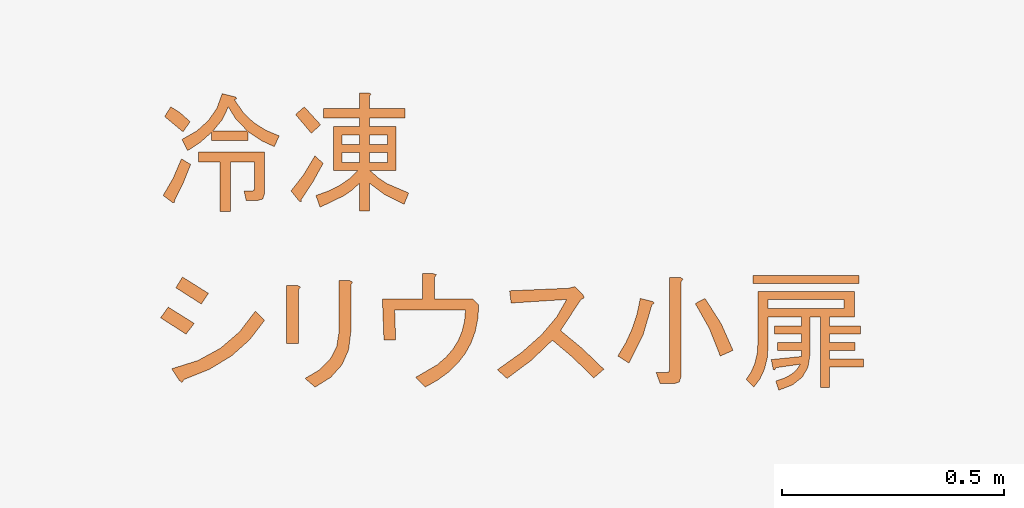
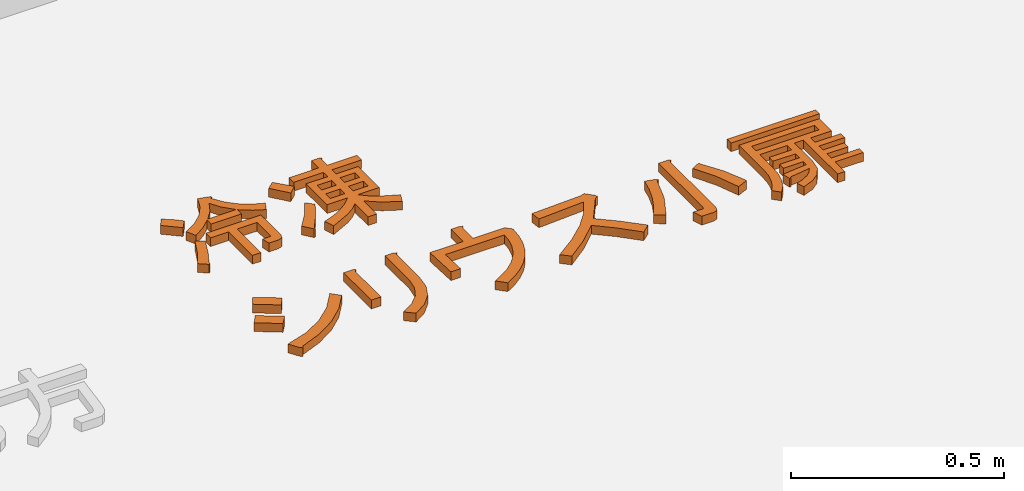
# One storey, part 15 of 16: 1 proxy.
"""IFC2X3 building model written with IfcOpenShell, lengths in millimetres."""

import ifcopenshell
import ifcopenshell.guid

model = None  # the IFC model being written
_history = None  # IfcOwnerHistory: only IFC2X3 demands one
_inside = {}  # id of a spatial element -> (the spatial element, [elements in it])
_under = {}  # id of a project, library or spatial element -> (it, [spatial elements below it])
_declared = {}  # id of a project -> (the project, [libraries it declares])
_typed = {}  # id of a type object -> (the type object, [elements of that type])
_made_of = {}  # id of a material, layer set ... -> (it, [elements and type objects made of it])


def new_model(schema):
    """Start an empty IFC model of exactly this schema.

    Asked for "IFC4X3", IfcOpenShell would pick the latest addendum, in which some entities
    have other attributes; the version numbers below select the first issue.
    IFC2X3 requires an IfcOwnerHistory on every rooted entity: one is made here for all.
    """
    global model, _history
    if schema == "IFC4X3":
        model = ifcopenshell.file(schema_version=(4, 3, 0, 0))
    else:
        model = ifcopenshell.file(schema=schema)
    _inside.clear()
    _under.clear()
    _declared.clear()
    _typed.clear()
    _made_of.clear()
    _history = None
    if model.schema == "IFC2X3":
        org = make("IfcOrganization", Name="unknown")
        user = make(
            "IfcPersonAndOrganization",
            ThePerson=make("IfcPerson", FamilyName="unknown"),
            TheOrganization=org,
        )
        app = make(
            "IfcApplication",
            ApplicationDeveloper=org,
            Version="unknown",
            ApplicationFullName="unknown",
            ApplicationIdentifier="unknown",
        )
        _history = make(
            "IfcOwnerHistory",
            OwningUser=user,
            OwningApplication=app,
            ChangeAction="ADDED",
            CreationDate=0,
        )
    return model


def make(cls, **values):
    """One entity of the class cls with the attributes given. An attribute that is None is left unset."""
    return model.create_entity(
        cls, **{name: value for name, value in values.items() if value is not None}
    )


def entity(cls, *values):
    """Any entity or typed value of the class cls, its attributes in the order of the schema. None: left unset."""
    e = model.create_entity(cls)
    for i, value in enumerate(values):
        if value is not None:
            e[i] = value
    return e


def rooted(cls, **values):
    """An entity with a GlobalId (a new one), such as an element, a storey or a relation."""
    return make(cls, GlobalId=ifcopenshell.guid.new(), OwnerHistory=_history, **values)


def si_unit(unit_type, name, prefix=None):
    """IfcSIUnit, for example si_unit("LENGTHUNIT", "METRE", prefix="MILLI")."""
    return make("IfcSIUnit", UnitType=unit_type, Prefix=prefix, Name=name)


def converted_unit(unit_type, name, factor, base, dimensions=None, offset=None):
    """IfcConversionBasedUnit, such as the inch: factor (a typed value) times the base unit."""
    return make(
        "IfcConversionBasedUnit"
        if offset is None
        else "IfcConversionBasedUnitWithOffset",
        ConversionOffset=offset,
        Dimensions=None
        if dimensions is None
        else entity("IfcDimensionalExponents", *dimensions),
        UnitType=unit_type,
        Name=name,
        ConversionFactor=make(
            "IfcMeasureWithUnit", ValueComponent=factor, UnitComponent=base
        ),
    )


def derived_unit(unit_type, elements):
    """IfcDerivedUnit: a product of units, each with its exponent."""
    return make(
        "IfcDerivedUnit",
        Elements=[
            make("IfcDerivedUnitElement", Unit=unit, Exponent=power)
            for unit, power in elements
        ],
        UnitType=unit_type,
    )


def assignment(units):
    """IfcUnitAssignment: the units of a project."""
    return None if units is None else make("IfcUnitAssignment", Units=units)


def point(xyz):
    """IfcCartesianPoint."""
    return None if xyz is None else make("IfcCartesianPoint", Coordinates=xyz)


def direction(xyz):
    """IfcDirection."""
    return None if xyz is None else make("IfcDirection", DirectionRatios=xyz)


def frame(location, z_axis=None, x_axis=None):
    """IfcAxis2Placement3D, a coordinate frame: its origin and axes. An axis left out is left unset."""
    return make(
        "IfcAxis2Placement3D",
        Location=point(location),
        Axis=direction(z_axis),
        RefDirection=direction(x_axis),
    )


def frame_2d(location, x_axis=None):
    """IfcAxis2Placement2D, a coordinate frame in the plane: its origin and x axis."""
    return make(
        "IfcAxis2Placement2D", Location=point(location), RefDirection=direction(x_axis)
    )


def origin():
    """The frame at (0, 0, 0) with its axes left unset."""
    return frame((0.0, 0.0, 0.0))


def place(relative_to, where):
    """IfcLocalPlacement: puts the frame where relative to a parent placement (None: the world)."""
    return make(
        "IfcLocalPlacement", PlacementRelTo=relative_to, RelativePlacement=where
    )


def context(
    kind, dimensions, precision=None, world=None, true_north=None, identifier=None
):
    """IfcGeometricRepresentationContext, for example the 3D "Model" context."""
    return make(
        "IfcGeometricRepresentationContext",
        ContextIdentifier=identifier,
        ContextType=kind,
        CoordinateSpaceDimension=dimensions,
        Precision=precision,
        WorldCoordinateSystem=world,
        TrueNorth=true_north,
    )


def subcontext(parent, identifier, kind, view, scale=None):
    """IfcGeometricRepresentationSubContext, for example "Body" below "Model"."""
    return make(
        "IfcGeometricRepresentationSubContext",
        ContextIdentifier=identifier,
        ContextType=kind,
        ParentContext=parent,
        TargetScale=scale,
        TargetView=view,
    )


def project(units=None, contexts=None):
    """IfcProject with its units and contexts."""
    return rooted(
        "IfcProject",
        Name="project",
        RepresentationContexts=contexts,
        UnitsInContext=assignment(units),
    )


def spatial(cls, under=None, at=None, **own):
    """A site, building, storey or space (cls), placed at a placement, below another one or the project."""
    s = rooted(cls, ObjectPlacement=at, **own)
    if under is not None:
        _under.setdefault(under.id(), (under, []))[1].append(s)
    return s


def polyline(points):
    """IfcPolyline through the points."""
    return make("IfcPolyline", Points=[point(p) for p in points])


def profile(cls, at=None, kind="AREA", **sizes):
    """A parametric profile (cls). Its sizes go by their IFC names, for example OverallWidth=200.0."""
    return make(cls, ProfileType=kind, Position=at, **sizes)


def rectangle(**sizes):
    """IfcRectangleProfileDef."""
    return profile("IfcRectangleProfileDef", **sizes)


def outline(outer, holes=None, kind="AREA"):
    """IfcArbitraryClosedProfileDef: a profile drawn as a closed curve; with holes, ...WithVoids."""
    if holes is None:
        return make("IfcArbitraryClosedProfileDef", ProfileType=kind, OuterCurve=outer)
    return make(
        "IfcArbitraryProfileDefWithVoids",
        ProfileType=kind,
        OuterCurve=outer,
        InnerCurves=holes,
    )


def extrude(swept, where, along, depth):
    """IfcExtrudedAreaSolid: the profile swept, set in the frame where, extruded along a direction by depth."""
    return make(
        "IfcExtrudedAreaSolid",
        SweptArea=swept,
        Position=where,
        ExtrudedDirection=direction(along),
        Depth=depth,
    )


def shape(context_of_items, identifier, shape_type, items):
    """IfcShapeRepresentation: the items that make up one representation, for example the "Body"."""
    return make(
        "IfcShapeRepresentation",
        ContextOfItems=context_of_items,
        RepresentationIdentifier=identifier,
        RepresentationType=shape_type,
        Items=items,
    )


def made_of(thing, what):
    """Note that an element or type object is made of a material, layer set ...; save() writes the relation."""
    if what is not None:
        _made_of.setdefault(what.id(), (what, []))[1].append(thing)
    return thing


def type_object(cls, material=None, **own):
    """A type object (cls), such as IfcWallType, which elements share."""
    return made_of(rooted(cls, **own), material)


def element(
    cls,
    number,
    at=None,
    inside=None,
    cuts=None,
    type_object=None,
    material=None,
    context=None,
    identifier="Body",
    shape_type=None,
    held_by="IfcProductDefinitionShape",
    body=None,
    shapes=None,
    **own,
):
    """One element of the class cls, such as IfcWall. Its Tag is "e" and its number.

    at: its placement. inside: the storey or other place that contains it. cuts: it is an
    opening in that element (IfcRelVoidsElement). A single representation is given by context,
    identifier, shape_type and body (its items); several are given by shapes. held_by: the class
    of the entity that holds the representations. save() writes the other relations.
    """
    e = rooted(cls, Tag="e%d" % number, ObjectPlacement=at, **own)
    if body is not None:
        shapes = [shape(context, identifier, shape_type, body)]
    if shapes is not None:
        e.Representation = make(held_by, Representations=shapes)
    if inside is not None:
        _inside.setdefault(inside.id(), (inside, []))[1].append(e)
    if cuts is not None:
        rooted(
            "IfcRelVoidsElement", RelatingBuildingElement=cuts, RelatedOpeningElement=e
        )
    if type_object is not None:
        _typed.setdefault(type_object.id(), (type_object, []))[1].append(e)
    return made_of(e, material)


def aggregate(whole, parts):
    """IfcRelAggregates: a whole, such as a stair, and the parts it consists of."""
    return rooted("IfcRelAggregates", RelatingObject=whole, RelatedObjects=parts)


def save(model, path):
    """Write the relations noted so far, then the file.

    IfcRelAggregates (storeys below a building ...), IfcRelContainedInSpatialStructure (elements
    in a storey), IfcRelDefinesByType, IfcRelAssociatesMaterial and IfcRelDeclares: one each for
    every whole, place, type object, material and project.
    """
    for whole, parts in _under.values():
        aggregate(whole, parts)
    for where, things in _inside.values():
        rooted(
            "IfcRelContainedInSpatialStructure",
            RelatedElements=things,
            RelatingStructure=where,
        )
    for kind, things in _typed.values():
        rooted("IfcRelDefinesByType", RelatedObjects=things, RelatingType=kind)
    for what, things in _made_of.values():
        rooted("IfcRelAssociatesMaterial", RelatedObjects=things, RelatingMaterial=what)
    for by, libraries in _declared.values():
        rooted("IfcRelDeclares", RelatingContext=by, RelatedDefinitions=libraries)
    model.write(path)


model = new_model("IFC2X3")

# Units and contexts
model_context = context("Model", 3, precision=0.01, world=origin(), true_north=direction((6.123031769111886e-17, 1.0)))
body_context = subcontext(model_context, "Body", "Model", "MODEL_VIEW")
ifc_project = project(units=[si_unit("LENGTHUNIT", "METRE", prefix="MILLI"), si_unit("AREAUNIT", "SQUARE_METRE"), si_unit("VOLUMEUNIT", "CUBIC_METRE"), converted_unit("PLANEANGLEUNIT", "DEGREE", entity("IfcRatioMeasure", 0.017453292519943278), si_unit("PLANEANGLEUNIT", "RADIAN"), dimensions=[0, 0, 0, 0, 0, 0, 0]), si_unit("MASSUNIT", "GRAM", prefix="KILO"), derived_unit("MASSDENSITYUNIT", [(si_unit("MASSUNIT", "GRAM", prefix="KILO"), 1), (si_unit("LENGTHUNIT", "METRE"), -3)]), derived_unit("IONCONCENTRATIONUNIT", [(si_unit("MASSUNIT", "GRAM", prefix="KILO"), 1), (si_unit("LENGTHUNIT", "METRE"), -3)]), derived_unit("MOMENTOFINERTIAUNIT", [(si_unit("LENGTHUNIT", "METRE"), 4)]), si_unit("TIMEUNIT", "SECOND"), si_unit("FREQUENCYUNIT", "HERTZ"), si_unit("THERMODYNAMICTEMPERATUREUNIT", "DEGREE_CELSIUS"), derived_unit("THERMALTRANSMITTANCEUNIT", [(si_unit("MASSUNIT", "GRAM", prefix="KILO"), 1), (si_unit("THERMODYNAMICTEMPERATUREUNIT", "KELVIN"), -1), (si_unit("TIMEUNIT", "SECOND"), -3)]), derived_unit("THERMALCONDUCTANCEUNIT", [(si_unit("MASSUNIT", "GRAM", prefix="KILO"), 1), (si_unit("THERMODYNAMICTEMPERATUREUNIT", "KELVIN"), -1), (si_unit("TIMEUNIT", "SECOND"), -3), (si_unit("LENGTHUNIT", "METRE"), 1)]), derived_unit("VOLUMETRICFLOWRATEUNIT", [(si_unit("LENGTHUNIT", "METRE"), 3), (si_unit("TIMEUNIT", "SECOND"), -1)]), derived_unit("MASSFLOWRATEUNIT", [(si_unit("MASSUNIT", "GRAM", prefix="KILO"), 1), (si_unit("TIMEUNIT", "SECOND"), -1)]), derived_unit("ROTATIONALFREQUENCYUNIT", [(si_unit("TIMEUNIT", "SECOND"), -1)]), si_unit("ELECTRICCURRENTUNIT", "AMPERE"), si_unit("ELECTRICVOLTAGEUNIT", "VOLT"), si_unit("POWERUNIT", "WATT"), si_unit("FORCEUNIT", "NEWTON", prefix="KILO"), si_unit("ILLUMINANCEUNIT", "LUX"), si_unit("LUMINOUSFLUXUNIT", "LUMEN"), si_unit("LUMINOUSINTENSITYUNIT", "CANDELA"), derived_unit("USERDEFINED", [(si_unit("MASSUNIT", "GRAM", prefix="KILO"), -1), (si_unit("LENGTHUNIT", "METRE"), -2), (si_unit("TIMEUNIT", "SECOND"), 3), (si_unit("LUMINOUSFLUXUNIT", "LUMEN"), 1)]), derived_unit("USERDEFINED", [(si_unit("MASSUNIT", "GRAM", prefix="KILO"), 1), (si_unit("TIMEUNIT", "SECOND"), -3), (si_unit("LENGTHUNIT", "METRE"), 3), (si_unit("ELECTRICCURRENTUNIT", "AMPERE"), -2)]), derived_unit("SOUNDPOWERUNIT", [(si_unit("MASSUNIT", "GRAM", prefix="KILO"), 1), (si_unit("TIMEUNIT", "SECOND"), -3), (si_unit("LENGTHUNIT", "METRE"), 2)]), derived_unit("SOUNDPRESSUREUNIT", [(si_unit("MASSUNIT", "GRAM", prefix="KILO"), 1), (si_unit("LENGTHUNIT", "METRE"), -1), (si_unit("TIMEUNIT", "SECOND"), -2)]), derived_unit("LINEARVELOCITYUNIT", [(si_unit("LENGTHUNIT", "METRE"), 1), (si_unit("TIMEUNIT", "SECOND"), -1)]), si_unit("PRESSUREUNIT", "PASCAL"), derived_unit("USERDEFINED", [(si_unit("MASSUNIT", "GRAM", prefix="KILO"), 1), (si_unit("LENGTHUNIT", "METRE"), -2), (si_unit("TIMEUNIT", "SECOND"), -2)]), derived_unit("LINEARFORCEUNIT", [(si_unit("MASSUNIT", "GRAM", prefix="KILO"), 1), (si_unit("TIMEUNIT", "SECOND"), -2)]), derived_unit("PLANARFORCEUNIT", [(si_unit("MASSUNIT", "GRAM", prefix="KILO"), 1), (si_unit("LENGTHUNIT", "METRE"), -1), (si_unit("TIMEUNIT", "SECOND"), -2)]), derived_unit("SPECIFICHEATCAPACITYUNIT", [(si_unit("THERMODYNAMICTEMPERATUREUNIT", "KELVIN"), -1), (si_unit("LENGTHUNIT", "METRE"), 2), (si_unit("TIMEUNIT", "SECOND"), -2)]), derived_unit("HEATINGVALUEUNIT", [(si_unit("LENGTHUNIT", "METRE"), 2), (si_unit("TIMEUNIT", "SECOND"), -2)]), derived_unit("VAPORPERMEABILITYUNIT", [(si_unit("LENGTHUNIT", "METRE"), -1), (si_unit("TIMEUNIT", "SECOND"), 1)]), derived_unit("DYNAMICVISCOSITYUNIT", [(si_unit("MASSUNIT", "GRAM", prefix="KILO"), 1), (si_unit("TIMEUNIT", "SECOND"), -1), (si_unit("LENGTHUNIT", "METRE"), -1)]), derived_unit("THERMALEXPANSIONCOEFFICIENTUNIT", [(si_unit("THERMODYNAMICTEMPERATUREUNIT", "KELVIN"), -1)]), derived_unit("MODULUSOFELASTICITYUNIT", [(si_unit("MASSUNIT", "GRAM", prefix="KILO"), 1), (si_unit("LENGTHUNIT", "METRE"), -1), (si_unit("TIMEUNIT", "SECOND"), -2)]), derived_unit("ISOTHERMALMOISTURECAPACITYUNIT", [(si_unit("LENGTHUNIT", "METRE"), 3), (si_unit("MASSUNIT", "GRAM", prefix="KILO"), -1)]), derived_unit("MOISTUREDIFFUSIVITYUNIT", [(si_unit("TIMEUNIT", "SECOND"), -1), (si_unit("LENGTHUNIT", "METRE"), 2)])], contexts=[model_context])

# Site, building, storey
site_placement = place(None, origin())
site = spatial("IfcSite", under=ifc_project, at=site_placement, Name="Default", CompositionType="ELEMENT")
building_placement = place(site_placement, origin())
building = spatial("IfcBuilding", under=site, at=building_placement, CompositionType="ELEMENT")
storey_placement = place(building_placement, frame((0.0, 0.0, 500.0)))
storey = spatial("IfcBuildingStorey", under=building, at=storey_placement, Name="レベル 1", CompositionType="ELEMENT", Elevation=500.00000000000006)

# Proxy
building_element_proxy_type = type_object("IfcBuildingElementProxyType", Name="立体文字:200㎜\u3000MS Pゴシック", PredefinedType="NOTDEFINED")
proxy_placement = place(storey_placement, origin())
element("IfcBuildingElementProxy", 1, at=proxy_placement, inside=storey, type_object=building_element_proxy_type, Name="立体文字:200㎜\u3000MS Pゴシック", ObjectType="立体文字:200㎜\u3000MS Pゴシック", context=body_context, shape_type="SweptSolid", body=[
    extrude(outline(polyline([(-12.69292841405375, -26.506046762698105), (13.137935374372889, -26.506046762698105), (20.196666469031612, 26.894788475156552), (-7.8336570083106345, 28.224694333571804), (-12.808016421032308, -2.107389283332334), (-12.69292841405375, -26.506046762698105)])), frame((10373.947496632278, 18997.184638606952, 0.0), z_axis=(0.0, 0.0, 1.0), x_axis=(-0.5339929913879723, -0.8454889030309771, 0.0)), (0.0, 0.0, 1.0), 24.99999999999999),
    extrude(outline(polyline([(-35.74413796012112, -10.848757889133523), (11.518383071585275, -10.84875788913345), (59.58462904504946, -6.865077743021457), (63.770987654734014, 17.99448415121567), (13.954019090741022, 15.607770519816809), (-32.1867814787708, 19.112710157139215), (-41.482035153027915, -10.520278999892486), (-39.415064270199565, -13.632092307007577), (-35.74413796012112, -10.848757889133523)])), frame((10663.316452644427, 18848.645883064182, 0.0), z_axis=(0.0, 0.0, 1.0), x_axis=(0.5532962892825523, 0.8329845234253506, 0.0)), (0.0, 0.0, 1.0), 24.99999999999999),
    extrude(outline(polyline([(-14.555450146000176, -34.35830877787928), (13.834076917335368, -34.35830877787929), (14.857961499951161, 33.86963659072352), (-14.136588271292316, 34.846980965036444), (-14.555450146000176, -34.35830877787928)])), frame((10406.304749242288, 18607.702182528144, 0.0), z_axis=(0.0, 0.0, 1.0), x_axis=(-0.526354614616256, -0.8502651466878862, 0.0)), (0.0, 0.0, 1.0), 24.99999999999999),
    extrude(outline(polyline([(-84.58097707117, 8.189890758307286), (-84.58097707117, -18.24765133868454), (45.307816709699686, -18.24765133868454), (45.307816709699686, 7.040432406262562), (42.43417082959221, 13.075088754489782), (36.112149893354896, 8.189890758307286), (-84.58097707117, 8.189890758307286)])), frame((10637.949343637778, 18573.314220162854, 0.0), z_axis=(0.0, 0.0, -1.0), x_axis=(0.0, 1.0, 0.0)), (0.0, 0.0, -1.0), 25.0),
    extrude(outline(polyline([(-11.477428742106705, -36.07605005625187), (15.650762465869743, -36.07605005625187), (18.548657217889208, -33.226859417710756), (15.261129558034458, -27.796350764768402), (8.868714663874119, 11.398284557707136), (-3.1003212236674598, 57.192327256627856), (-27.257561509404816, 55.098050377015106), (-16.49395243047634, 9.486648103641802), (-11.477428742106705, -36.07605005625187)])), frame((10371.713236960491, 18844.299493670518, 0.0), z_axis=(0.0, 0.0, 1.0), x_axis=(0.805055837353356, -0.5931990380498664, 0.0)), (0.0, 0.0, 1.0), 24.999999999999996),
    extrude(outline(polyline([(-21.43923971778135, -112.61303631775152), (6.833697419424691, -112.61303631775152), (2.592756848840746, -77.40037824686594), (-6.017637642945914, -45.78609399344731), (10.43207123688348, -54.010948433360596), (47.443916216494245, 20.012741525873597), (29.96610053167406, 28.75164936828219), (60.93781803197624, 46.35797840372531), (85.99792140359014, 66.2775477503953), (69.54821252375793, 87.3537372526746), (43.460002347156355, 64.89602923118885), (15.058551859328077, 48.414192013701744), (-15.6561389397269, 37.90822560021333), (-48.68407005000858, 33.37812999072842), (-48.298529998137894, 38.64717736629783), (-52.2824438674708, 39.032717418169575), (-73.35863336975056, 14.872207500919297), (-49.68004851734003, -10.059382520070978), (-33.1339546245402, -39.61745316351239), (-23.720351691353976, -73.80200442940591), (-21.43923971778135, -112.61303631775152)]), holes=[polyline([(26.881780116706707, 27.723542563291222), (-7.559797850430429, -41.15961337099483), (-20.668159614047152, -11.47302937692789), (-40.45921561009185, 13.844100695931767), (-9.230471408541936, 16.542881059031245), (26.881780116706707, 27.723542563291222)])]), frame((10493.915028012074, 18979.691319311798, 0.0), z_axis=(0.0, 0.0, 1.0), x_axis=(0.4472135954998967, -0.8944271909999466, 0.0)), (0.0, 0.0, 1.0), 24.99999999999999),
    extrude(outline(polyline([(-95.80016952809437, -47.900084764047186), (-95.80016952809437, -69.73979345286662), (53.629416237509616, -69.73979345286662), (53.629416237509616, 24.51579141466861), (49.60631200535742, 35.723010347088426), (37.536999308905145, 39.458749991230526), (12.248915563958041, 39.458749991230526), (7.6510821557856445, 17.619041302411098), (26.042415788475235, 17.619041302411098), (29.49079084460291, 16.469582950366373), (30.64024919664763, 13.0212078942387), (30.64024919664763, -47.900084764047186), (-23.384293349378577, -47.900084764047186), (-23.384293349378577, 63.59737538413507), (-46.37346039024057, 63.59737538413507), (-46.37346039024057, -47.900084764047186), (-95.80016952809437, -47.900084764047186)])), frame((10516.185783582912, 18850.02882514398, 0.0), z_axis=(0.0, 0.0, -1.0), x_axis=(1.0, 0.0, 0.0)), (0.0, 0.0, -1.0), 24.99999999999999),
    extrude(outline(polyline([(-13.144087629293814, -27.492310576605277), (12.91593567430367, -27.492310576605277), (14.335547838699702, 27.973964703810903), (-14.107395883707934, 27.01065644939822), (-13.144087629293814, -27.492310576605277)])), frame((10667.806524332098, 18992.759223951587, 0.0), z_axis=(0.0, 0.0, 1.0), x_axis=(-0.7498378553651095, -0.6616216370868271, 0.0)), (0.0, 0.0, 1.0), 24.99999999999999),
    extrude(outline(polyline([(-127.45617271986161, 14.342286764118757), (-127.45617271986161, -8.64688027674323), (-65.38542170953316, -8.64688027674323), (-79.53812766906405, -23.230633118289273), (-93.25978674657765, -42.84326625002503), (-119.40996425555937, -97.1551733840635), (-92.97242215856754, -106.3508402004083), (-82.12440896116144, -76.75228763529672), (-69.1211613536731, -51.17683930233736), (-53.96267933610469, -29.6244952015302), (-36.64896290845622, -12.09525533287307), (-36.64896290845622, -67.26925623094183), (62.204455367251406, -67.26925623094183), (62.204455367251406, -8.64688027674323), (81.74524735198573, -8.64688027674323), (81.74524735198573, -89.10896491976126), (103.58495604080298, -89.10896491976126), (103.58495604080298, -8.64688027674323), (138.06870660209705, -8.64688027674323), (138.06870660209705, 13.1928284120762), (135.76978989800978, 18.078026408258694), (131.17195648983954, 14.342286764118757), (103.58495604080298, 14.342286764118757), (103.58495604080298, 94.8043714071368), (81.74524735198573, 94.8043714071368), (81.74524735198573, 14.342286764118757), (62.204455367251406, 14.342286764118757), (62.204455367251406, 74.11412107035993), (-36.64896290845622, 74.11412107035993), (-36.64896290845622, 15.491745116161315), (-52.741379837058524, 33.883078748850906), (-66.53488006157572, 54.573329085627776), (-87.22513039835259, 102.85057987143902), (-112.51321414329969, 92.50545470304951), (-91.53559921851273, 49.40076650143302), (-65.38542170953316, 14.342286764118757), (-127.45617271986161, 14.342286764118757)]), holes=[polyline([(21.973413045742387, 14.342286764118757), (21.973413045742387, 54.573329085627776), (43.81312173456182, 54.573329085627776), (43.81312173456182, 14.342286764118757), (21.973413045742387, 14.342286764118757)]), polyline([(-18.257629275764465, 14.342286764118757), (-18.257629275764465, 54.573329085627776), (3.582079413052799, 54.573329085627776), (3.582079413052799, 14.342286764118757), (-18.257629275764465, 14.342286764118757)]), polyline([(-18.257629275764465, -47.72846424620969), (-18.257629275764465, -8.64688027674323), (3.582079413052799, -8.64688027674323), (3.582079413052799, -47.72846424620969), (-18.257629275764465, -47.72846424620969)]), polyline([(21.973413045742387, -47.72846424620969), (21.973413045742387, -8.64688027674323), (43.81312173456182, -8.64688027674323), (43.81312173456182, -47.72846424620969), (21.973413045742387, -47.72846424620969)])]), frame((10792.261333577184, 18915.037080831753, 0.0), z_axis=(0.0, 0.0, -1.0), x_axis=(0.0, 1.0, 0.0)), (0.0, 0.0, -1.0), 24.99999999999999),
    extrude(outline(polyline([(-24.760861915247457, -100.93244714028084), (5.213344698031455, -100.93244714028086), (14.007247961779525, -98.35378377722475), (10.414751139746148, -90.61779368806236), (21.87547719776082, -29.78778614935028), (23.19786866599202, 27.95664129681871), (14.381925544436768, 82.61548865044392), (-4.572352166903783, 134.1887559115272), (-33.13600788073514, 127.84127686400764), (-12.975047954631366, 72.9455010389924), (-4.858870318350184, 16.517955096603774), (-8.787474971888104, -41.44136096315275), (-24.760861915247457, -100.93244714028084)])), frame((10459.060098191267, 18464.558697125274, 0.0), z_axis=(0.0, 0.0, 1.0), x_axis=(0.5368754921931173, -0.8436614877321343, 0.0)), (0.0, 0.0, 1.0), 24.99999999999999),
    extrude(outline(polyline([(-12.927911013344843, -34.30740209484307), (16.736132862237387, -34.30740209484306), (13.261965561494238, 33.839725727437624), (-17.07018741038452, 34.77507846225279), (-12.927911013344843, -34.30740209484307)])), frame((10372.97045703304, 18539.884139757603, 0.0), z_axis=(0.0, 0.0, 1.0), x_axis=(-0.5812381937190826, -0.8137334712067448, 0.0)), (0.0, 0.0, 1.0), 24.99999999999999),
    extrude(outline(polyline([(12.171942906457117, 32.40035729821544), (-27.915417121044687, 27.371477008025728), (-61.968120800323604, 12.284836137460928), (-89.98616813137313, -12.85956531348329), (-111.96955911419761, -48.0617273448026), (-92.42876712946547, -71.05089438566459), (-72.88797514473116, -37.788443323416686), (-48.74934975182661, -13.865341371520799), (-20.012890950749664, 0.7184114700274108), (13.32140125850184, 5.962815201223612), (128.26723646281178, 5.962815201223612), (128.26723646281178, 30.101440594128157), (124.81886140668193, 36.42346153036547), (119.07156964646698, 32.40035729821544), (12.171942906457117, 32.40035729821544)])), frame((10732.13308735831, 18501.849383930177, 0.0), z_axis=(0.0, 0.0, -1.0), x_axis=(0.0, 1.0, 0.0)), (0.0, 0.0, -1.0), 25.0),
    extrude(outline(polyline([(-22.974011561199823, -96.8943406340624), (-3.467056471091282, -96.8943406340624), (57.492178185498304, -35.93510597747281), (91.6293495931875, -70.072277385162), (93.05173173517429, -77.59058299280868), (100.57003734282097, -74.13622636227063), (116.82583325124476, -57.88043045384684), (76.18634348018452, -17.240940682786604), (140.39673731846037, 46.96945315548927), (72.12239450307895, 110.3670571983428), (53.428229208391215, 91.67289190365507), (103.00840672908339, 45.343873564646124), (-9.969374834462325, -67.63390799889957), (-25.869575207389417, -48.8889433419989), (-38.21382022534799, -28.82319526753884), (-47.002109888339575, -7.436663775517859), (-52.23444419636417, 15.270651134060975), (-53.91082314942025, 39.298749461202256), (-52.03124674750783, 64.64763120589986), (-37.604227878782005, 119.30774494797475), (-68.49024010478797, 119.30774494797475), (-77.20233072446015, 88.01533782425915), (-81.79967300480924, 57.94211539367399), (-82.28226694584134, 29.08807765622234), (-78.65011254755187, 1.453224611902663), (-70.90320980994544, -24.962443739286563), (-59.04155873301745, -50.15892739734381), (-43.06515931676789, -74.1362263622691), (-22.974011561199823, -96.8943406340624)])), frame((10968.287766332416, 18522.673053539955, 0.0), z_axis=(0.0, 0.0, 1.0), x_axis=(-0.7071067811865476, 0.7071067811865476, 0.0)), (0.0, 0.0, 1.0), 24.999999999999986),
    extrude(outline(polyline([(5.525091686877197, 11.308020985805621), (-1.6526031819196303, 74.77664998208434), (-13.95159515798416, 140.91623239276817), (-42.89874219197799, 132.40700027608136), (-29.969436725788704, 67.22864593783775), (-22.823257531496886, 7.90432813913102), (-87.3476616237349, -7.171982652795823), (-151.01326358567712, -30.371458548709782), (-146.64834266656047, -59.3501212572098), (-83.07334826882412, -34.716682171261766), (-25.486332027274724, -19.214909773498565), (26.11270605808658, -12.844804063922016), (71.72376598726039, -15.60636504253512), (-3.7090009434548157, -115.96803050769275), (17.46953232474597, -133.9792384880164), (95.39203754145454, -25.628349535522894), (105.83948364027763, -15.98455313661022), (100.54485032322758, 9.480111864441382), (96.59357263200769, 15.507484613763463), (89.37254371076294, 11.308020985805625), (5.525091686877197, 11.308020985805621)])), frame((11225.210489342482, 18519.05020712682, 0.0), z_axis=(0.0, 0.0, -1.0), x_axis=(0.5483569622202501, 0.8362443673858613, 0.0)), (0.0, 0.0, -1.0), 24.999999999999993),
    extrude(outline(polyline([(-1.16701047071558, -84.82369873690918), (28.807196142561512, -84.82369873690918), (21.00508647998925, -13.150081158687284), (1.4777724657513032, 54.46820258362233), (4.232754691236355, 60.30876490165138), (-1.2551699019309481, 60.90384106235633), (-28.231955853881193, 51.91157907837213), (-15.696786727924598, 19.09974077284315), (-7.007572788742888, -14.626751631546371), (-2.164314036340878, -49.26789813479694), (-1.16701047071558, -84.82369873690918)])), frame((11413.41992626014, 18530.93273284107, 0.0), z_axis=(0.0, 0.0, 1.0), x_axis=(0.8436614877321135, -0.53687549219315, 0.0)), (0.0, 0.0, 1.0), 24.99999999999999),
    extrude(outline(polyline([(11.87773630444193, 63.81888558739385), (37.1658200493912, 63.81888558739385), (27.970153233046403, 89.10696933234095), (-4.214680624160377, 89.10696933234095), (-15.42189955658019, 85.37122968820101), (-19.157639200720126, 74.1640107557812), (-19.157639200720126, -140.7847010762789), (-24.042837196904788, -146.53199283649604), (-18.00818084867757, -149.98036789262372), (7.279902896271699, -149.98036789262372), (7.279902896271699, 59.22105217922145), (8.429361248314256, 62.669427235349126), (11.87773630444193, 63.81888558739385)])), frame((11490.270795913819, 18487.03300261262, 0.0), z_axis=(0.0, 0.0, 1.0), x_axis=(-1.0, 0.0, 0.0)), (0.0, 0.0, 1.0), 24.99999999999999),
    extrude(rectangle(XDim=239.08733722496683, YDim=18.39133363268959, at=frame_2d((-1.0800249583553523e-12, 0.0), x_axis=(1.0, 0.0))), frame((11791.0457313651, 18632.415537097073, 0.0), z_axis=(0.0, 0.0, 1.0), x_axis=(-1.0, 0.0, 0.0)), (0.0, 0.0, 1.0), 25.0),
    extrude(outline(polyline([(45.656903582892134, -73.01948813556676), (67.46634239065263, -73.01948813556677), (65.92150714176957, -40.16902093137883), (56.56162298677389, -13.952258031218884), (39.38668992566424, 5.630800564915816), (14.396707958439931, 18.580154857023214), (-67.38868757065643, 45.84195336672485), (-59.75538398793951, 68.74186411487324), (91.82021572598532, 18.216664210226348), (97.99955672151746, 36.75468719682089), (54.38067910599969, 51.29431306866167), (78.73455244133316, 124.35593307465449), (61.28700139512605, 130.17178342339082), (36.93312805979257, 57.110163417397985), (18.395105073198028, 63.28950441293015), (36.56963741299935, 117.81310143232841), (19.122086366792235, 123.62895178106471), (0.9475540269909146, 69.10535476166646), (-16.499997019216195, 74.92120511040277), (5.672932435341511, 141.43999347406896), (-11.774618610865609, 147.25584382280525), (-33.94754806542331, 80.73705545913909), (-53.576042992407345, 87.27988710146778), (-35.76500129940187, 140.71301218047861), (-90.28859831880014, 158.88754452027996), (-158.98833056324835, -47.21165221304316), (-48.85066458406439, -83.92420753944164), (-26.882198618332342, -92.98875554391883), (-7.867094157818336, -104.55230174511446), (8.194648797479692, -118.61484614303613), (21.303030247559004, -135.1763887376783), (43.112469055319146, -124.2716693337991), (29.367978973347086, -104.84763789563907), (11.761400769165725, -88.37696796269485), (-9.707265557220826, -74.85965953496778), (-35.038020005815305, -64.29571261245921), (-97.19492060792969, -43.57674574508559), (-73.5680285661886, 27.303930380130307), (-53.93953363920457, 20.761098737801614), (-73.20453791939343, -37.033914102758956), (-55.756986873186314, -42.84976445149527), (-36.491982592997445, 14.945248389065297), (-19.04443154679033, 9.129398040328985), (-36.128491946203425, -42.122783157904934), (-18.680940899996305, -47.938633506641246), (-1.5968805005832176, 3.313547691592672), (11.488782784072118, -1.0483400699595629), (-3.4143337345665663, -67.56712843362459), (18.758595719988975, -70.11156296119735), (21.303030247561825, -67.021892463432), (17.304633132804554, -63.56873131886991), (27.118880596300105, -8.68164365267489), (36.31973759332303, -19.927135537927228), (42.47636042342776, -34.39860691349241), (45.588749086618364, -52.0960577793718), (45.656903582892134, -73.01948813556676)]), holes=[polyline([(-80.1108602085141, 131.26225536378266), (-60.482365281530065, 124.71942372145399), (-114.6424716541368, -37.76089539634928), (-134.27096658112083, -31.218063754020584), (-80.1108602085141, 131.26225536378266)])]), frame((11778.0620767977, 18470.07805651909, 0.0), z_axis=(0.0, 0.0, 1.0), x_axis=(0.3162277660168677, -0.9486832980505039, 0.0)), (0.0, 0.0, 1.0), 25.0),
    extrude(outline(polyline([(-11.724299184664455, -66.08302194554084), (12.95561827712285, -66.08302194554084), (11.095255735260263, -1.1309398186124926), (18.255643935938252, 64.9186223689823), (-13.062689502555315, 67.11358249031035), (-17.519529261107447, 1.2647788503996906), (-11.724299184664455, -66.08302194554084)])), frame((11583.85586340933, 18525.94695723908, 0.0), z_axis=(0.0, 0.0, 1.0), x_axis=(-0.8849182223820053, -0.46574643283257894, 0.0)), (0.0, 0.0, 1.0), 24.999999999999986),
])

save(model, "model.ifc")
